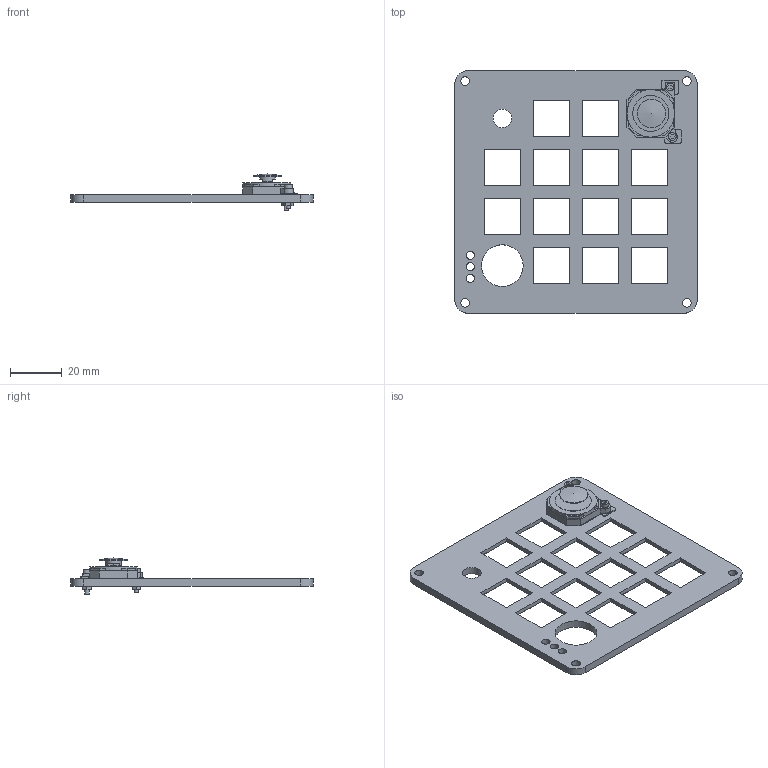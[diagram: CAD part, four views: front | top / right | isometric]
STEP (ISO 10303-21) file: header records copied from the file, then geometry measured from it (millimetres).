
FILE_DESCRIPTION(('Open CASCADE Model'),'2;1');
FILE_NAME('Open CASCADE Shape Model','2026-09-14T20:18:49',('Author'),( 'Open CASCADE'),'Open CASCADE STEP processor 7.9','Open CASCADE 7.9' ,'Unknown');
FILE_SCHEMA(('AUTOMOTIVE_DESIGN { 1 0 10303 214 1 1 1 1 }'));
Length unit declared in the file: millimetre
Products named in the file (7): FLAT_V3_PHYSICAL_FIT_PENDING; PRINT_full_plate; REFERENCE_joystick_NOT_PRINTABLE; BUY_M1_6x8_A; BUY_M1_6_nut_A; BUY_M1_6x8_B; BUY_M1_6_nut_B
Assembly tree (6 placements, depth 2):
  FLAT_V3_PHYSICAL_FIT_PENDING
    PRINT_full_plate
    REFERENCE_joystick_NOT_PRINTABLE
    BUY_M1_6x8_A
    BUY_M1_6_nut_A
    BUY_M1_6x8_B
    BUY_M1_6_nut_B
Bounding box: 94 x 94 x 14 mm (x, y, z)
Volume: 17738.1 mm3; surface area: 17762.5 mm2
Topology: 12 solids, 12 shells, 309 faces, 779 edges, 516 vertices
Faces by surface type: plane 262, cylinder 45, bspline 1, cone 1
Full cylindrical faces by diameter (mm): 1.6 x4, 2 x2, 2.4 x2, 3 x2, 3.2 x3, 3.4 x4, 6 x1, 7.2 x1, 11 x1, 14 x1, 16.2 x1, 18.5 x1
Entity records: 19914 total; most frequent: CARTESIAN_POINT 3733, DIRECTION 2986, LINE 2098, VECTOR 2098, ORIENTED_EDGE 1556, PCURVE 1556, DEFINITIONAL_REPRESENTATION 1556, EDGE_CURVE 778
